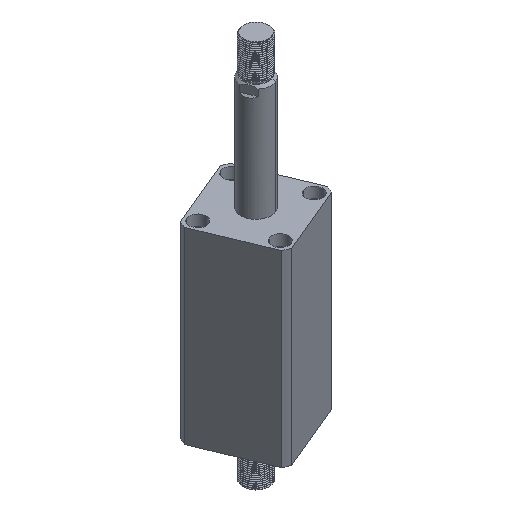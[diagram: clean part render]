
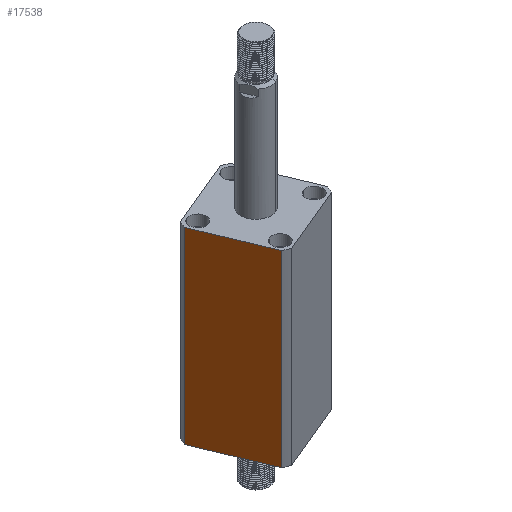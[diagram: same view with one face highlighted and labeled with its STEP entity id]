
A CAD part, isometric view. The second image highlights one B-rep face of the part: STEP entity #17538.
In plain terms, the highlighted planar face has unit normal (-0.924, -0.383, 0) as drawn and (0, -1, 0) by its records, which use the part's own axes.
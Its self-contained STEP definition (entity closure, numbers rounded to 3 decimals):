
#430 = CARTESIAN_POINT ( 'NONE',  ( -35., -35., 0. ) ) ;
#505 = ORIENTED_EDGE ( 'NONE', *, *, #3670, .F. ) ;
#705 = VERTEX_POINT ( 'NONE', #16259 ) ;
#830 = VERTEX_POINT ( 'NONE', #10581 ) ;
#1020 = DIRECTION ( 'NONE',  ( 0., 1., 0. ) ) ;
#1486 = VECTOR ( 'NONE', #7196, 1000. ) ;
#2093 = VECTOR ( 'NONE', #17204, 1000. ) ;
#2137 = VECTOR ( 'NONE', #11749, 1000. ) ;
#2226 = CARTESIAN_POINT ( 'NONE',  ( -30.615, -35., -145. ) ) ;
#2774 = EDGE_CURVE ( 'NONE', #11956, #14209, #12366, .T. ) ;
#3640 = LINE ( 'NONE', #4248, #10466 ) ;
#3670 = EDGE_CURVE ( 'NONE', #705, #14209, #3640, .T. ) ;
#4248 = CARTESIAN_POINT ( 'NONE',  ( 30.615, -35., -145. ) ) ;
#4610 = EDGE_CURVE ( 'NONE', #11956, #830, #8508, .T. ) ;
#5815 = FACE_OUTER_BOUND ( 'NONE', #13136, .T. ) ;
#6425 = PLANE ( 'NONE',  #13262 ) ;
#7196 = DIRECTION ( 'NONE',  ( 1., 0., 0. ) ) ;
#8508 = LINE ( 'NONE', #2226, #2137 ) ;
#10466 = VECTOR ( 'NONE', #13823, 1000. ) ;
#10564 = DIRECTION ( 'NONE',  ( 0., 0., 1. ) ) ;
#10581 = CARTESIAN_POINT ( 'NONE',  ( -30.615, -35., 155. ) ) ;
#11073 = CARTESIAN_POINT ( 'NONE',  ( -30.615, -35., 0. ) ) ;
#11749 = DIRECTION ( 'NONE',  ( 0., 0., 1. ) ) ;
#11956 = VERTEX_POINT ( 'NONE', #11073 ) ;
#12205 = EDGE_CURVE ( 'NONE', #830, #705, #16540, .T. ) ;
#12366 = LINE ( 'NONE', #430, #1486 ) ;
#13136 = EDGE_LOOP ( 'NONE', ( #17363, #16532, #505, #13681 ) ) ;
#13226 = CARTESIAN_POINT ( 'NONE',  ( -35., -35., 155. ) ) ;
#13262 = AXIS2_PLACEMENT_3D ( 'NONE', #17298, #1020, #10564 ) ;
#13370 = CARTESIAN_POINT ( 'NONE',  ( 30.615, -35., 0. ) ) ;
#13681 = ORIENTED_EDGE ( 'NONE', *, *, #12205, .F. ) ;
#13823 = DIRECTION ( 'NONE',  ( 0., 0., -1. ) ) ;
#14209 = VERTEX_POINT ( 'NONE', #13370 ) ;
#16259 = CARTESIAN_POINT ( 'NONE',  ( 30.615, -35., 155. ) ) ;
#16532 = ORIENTED_EDGE ( 'NONE', *, *, #2774, .T. ) ;
#16540 = LINE ( 'NONE', #13226, #2093 ) ;
#17204 = DIRECTION ( 'NONE',  ( 1., 0., 0. ) ) ;
#17298 = CARTESIAN_POINT ( 'NONE',  ( -35., -35., 155. ) ) ;
#17363 = ORIENTED_EDGE ( 'NONE', *, *, #4610, .F. ) ;
#17538 = ADVANCED_FACE ( 'NONE', ( #5815 ), #6425, .F. ) ;
